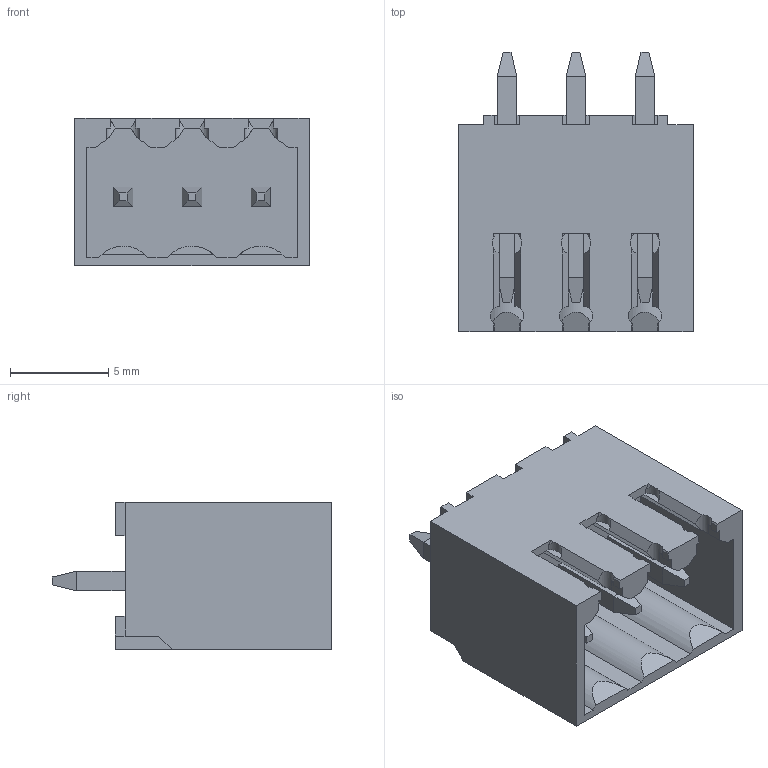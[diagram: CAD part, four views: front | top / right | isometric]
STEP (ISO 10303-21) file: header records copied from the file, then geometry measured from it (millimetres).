
FILE_DESCRIPTION((''),'2;1');
FILE_NAME('3PIN_SW0001','2019-05-27T',('zhenbing.lai'),(''),'CREO PARAMETRIC BY PTC INC, 2016260','CREO PARAMETRIC BY PTC INC, 2016260','');
FILE_SCHEMA(('CONFIG_CONTROL_DESIGN'));
Length unit declared in the file: millimetre
Products named in the file (1): 3PIN_SW0001
Bounding box: 11.9 x 14.2 x 7.5 mm (x, y, z)
Volume: 527 mm3; surface area: 929.6 mm2
Topology: 1 solids, 1 shells, 223 faces, 615 edges, 400 vertices
Faces by surface type: plane 208, cylinder 15
Entity records: 7049 total; most frequent: CARTESIAN_POINT 1373, ORIENTED_EDGE 1230, DIRECTION 1067, EDGE_CURVE 615, VECTOR 531, LINE 531, VERTEX_POINT 400, AXIS2_PLACEMENT_3D 268
